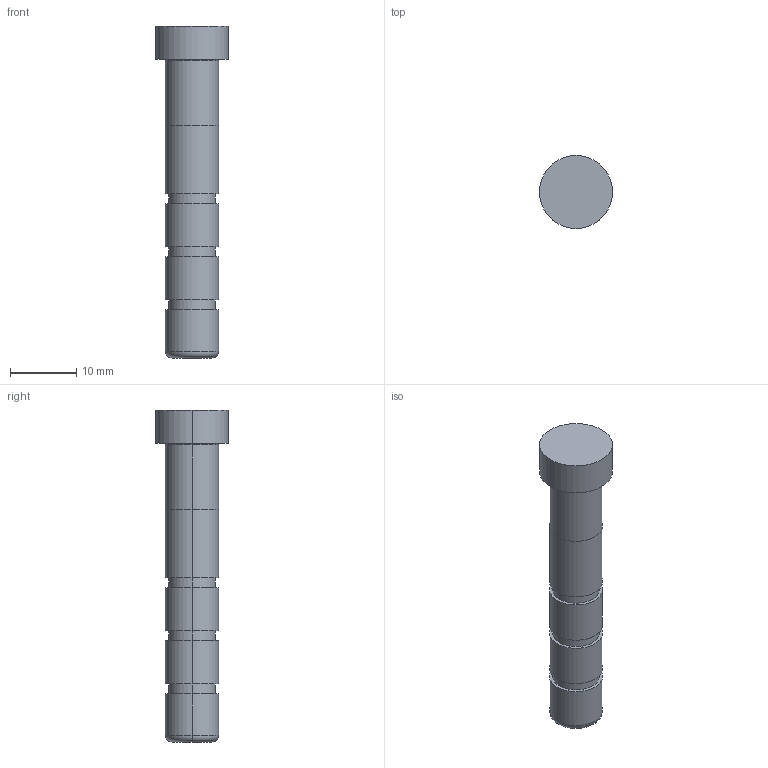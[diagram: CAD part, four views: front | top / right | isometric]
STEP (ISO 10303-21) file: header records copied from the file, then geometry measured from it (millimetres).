
FILE_DESCRIPTION(/* description */ (''),/* implementation_level */ '2;1');
FILE_NAME(/* name */ '3d_sgoh8-50_05212_r00.stp',/* time_stamp */ '2011-01-10T14:11:08+09:00',/* author */ ('MISUMI'),/* organization */ (''),/* preprocessor_version */ 'ST-DEVELOPER v11',/* originating_system */ 'UGS - NX 5.0',/* authorisation */ '');
FILE_SCHEMA (('CONFIG_CONTROL_DESIGN'));
Length unit declared in the file: millimetre
Products named in the file (1): 3d_sgoh8-50_05212_r00
Bounding box: 11 x 11 x 50 mm (x, y, z)
Volume: 2679.3 mm3; surface area: 1536.5 mm2
Topology: 1 solids, 1 shells, 31 faces, 60 edges, 38 vertices
Faces by surface type: cylinder 18, plane 9, torus 4
Entity records: 894 total; most frequent: DIRECTION 166, CARTESIAN_POINT 130, ORIENTED_EDGE 120, AXIS2_PLACEMENT_3D 74, EDGE_CURVE 60, CIRCLE 42, EDGE_LOOP 38, VERTEX_POINT 38
